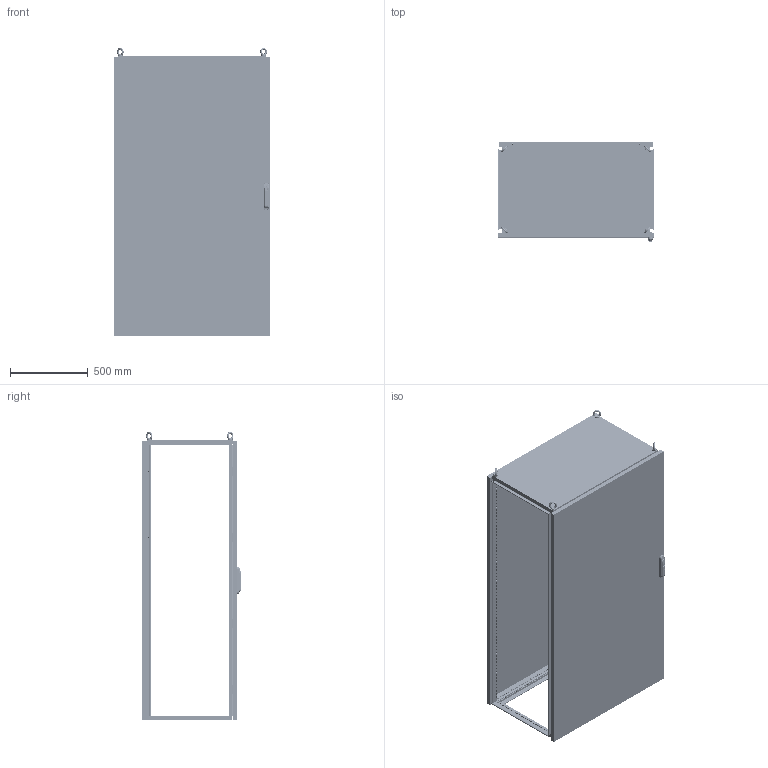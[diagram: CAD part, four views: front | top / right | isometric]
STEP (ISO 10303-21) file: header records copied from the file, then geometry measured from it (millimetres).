
FILE_DESCRIPTION(/* description */ ('Unknown'),/* implementation_level */ '2;1');
FILE_NAME(/* name */ 'MCA10018060',/* time_stamp */ '2025-03-07T09:32:55+01:00',/* author */ ('Unknown'),/* organization */ ('Unknown'),/* preprocessor_version */ 'ST-DEVELOPER v19.4',/* originating_system */ 'Solid Edge',/* authorisation */ 'Unknown');
FILE_SCHEMA (('CONFIG_CONTROL_DESIGN'));
Products named in the file (46): MCA10018060; F0000001.24; AE00198.03; M000X001.62; M0000000.29; AE00500.10; M000X000.45; M0000000.53; M0000000.39; M0000000.06; AE00219.03; AE00715.01; M000X000.59; M0000000.63; F000X000.76; F000X000.77; F0000000.68; F0000000.07; AE00100.03_oa_0; AE00100.03_oa_1; AE00100.03_oa_2; AE00100.03_oa_3; M0000000.37; AE00701.03; F0000000.13; F000X001.81; F000X001.82; F000X001.83; F0000001.38; F000X001.84; F0000002.21; F0000002.18; AE01400.01; AE00413.05; AE00417.01; F0000000.12; AE00222.15; AE00316.01; AE00992.10_oa_4; AE00992.31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
Assembly tree (190 placements, depth 5):
  MCA10018060
    F0000001.24  x4
    AE00198.03  x16
    M000X001.62
      M0000000.29  x4
      AE00500.10  x48
      M000X000.45  x2
        M0000000.53
        M0000000.39
        M0000000.06
    AE00219.03  x8
    AE00715.01  x4
    M000X000.59
      M0000000.63
    F000X000.76
      F000X000.77
        F0000000.68
      F0000000.07  x2
      AE00100.03_oa_0
      AE00100.03_oa_1
      AE00100.03_oa_2
      AE00100.03_oa_3
    M0000000.37  x8
    AE00701.03  x4
    F0000000.13  x4
    F000X001.81
      F000X001.82
        F000X001.83
          F0000001.38
        F000X001.84
          F0000002.21  x2
          F0000002.18  x2
          AE01400.01  x4
        AE00413.05  x4
        AE00417.01  x2
      F0000000.12  x8
      AE00222.15  x8
      AE00316.01  x8
      AE00992.10_oa_4
      AE00992.31
      AE00315.01  x4
      AE00992.74   x2
      AE00992.18  x4
      AE00992.16
      AE00636.02  x8
    F0000000.08  x4
Bounding box: 1000.5 x 638.7 x 1856.96 mm (x, y, z)
Volume: 17673733.6 mm3; surface area: 15620239.6 mm2
Topology: 199 solids, 199 shells, 10482 faces, 30080 edges, 20147 vertices
Faces by surface type: plane 7525, cylinder 2351, cone 534, torus 42, sphere 16, bspline 14
Full cylindrical faces by diameter (mm): 2 x4, 3 x1, 3.242 x2, 4 x12, 4.134 x5, 4.25 x198, 4.5 x992, 4.917 x65, 4.918 x8, 5 x6, 6 x58, 6.1 x20, 6.2 x8, 6.5 x20, 7.5 x2, 8.3 x8, 8.5 x2, 9 x48, 10.106 x8, 10.5 x16, 11.8 x8, 12 x16, 13 x4, 14 x1, 16 x1, 17 x1, 23 x2, 30 x4
Entity records: 83266 total; most frequent: CARTESIAN_POINT 14563, ORIENTED_EDGE 12940, DIRECTION 12854, EDGE_CURVE 6470, LINE 5104, VECTOR 5104, VERTEX_POINT 4588, FACE_BOUND 4216
